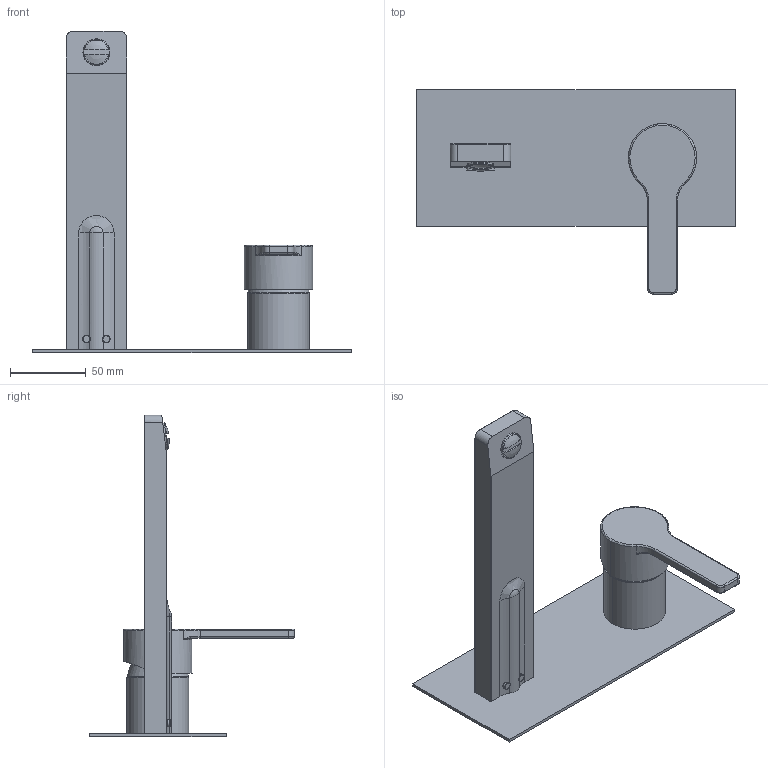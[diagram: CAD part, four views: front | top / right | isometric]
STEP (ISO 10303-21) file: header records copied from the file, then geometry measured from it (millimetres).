
FILE_DESCRIPTION((''),'2;1');
FILE_NAME('F3541LX5_FILE_3D','2013-05-15T',('ivanv'),(''),'PRO/ENGINEER BY PARAMETRIC TECHNOLOGY CORPORATION, 2012130','PRO/ENGINEER BY PARAMETRIC TECHNOLOGY CORPORATION, 2012130','');
FILE_SCHEMA(('CONFIG_CONTROL_DESIGN'));
Length unit declared in the file: millimetre
Products named in the file (1): F3541LX5_FILE_3D
Bounding box: 210 x 135 x 212 mm (x, y, z)
Volume: 201708.7 mm3; surface area: 89243.5 mm2
Topology: 1 solids, 3 shells, 169 faces, 399 edges, 252 vertices
Faces by surface type: plane 69, cylinder 58, cone 20, torus 14, bspline 5, sphere 3
Entity records: 5732 total; most frequent: CARTESIAN_POINT 1762, DIRECTION 847, ORIENTED_EDGE 798, EDGE_CURVE 399, AXIS2_PLACEMENT_3D 325, VERTEX_POINT 252, VECTOR 197, LINE 197
